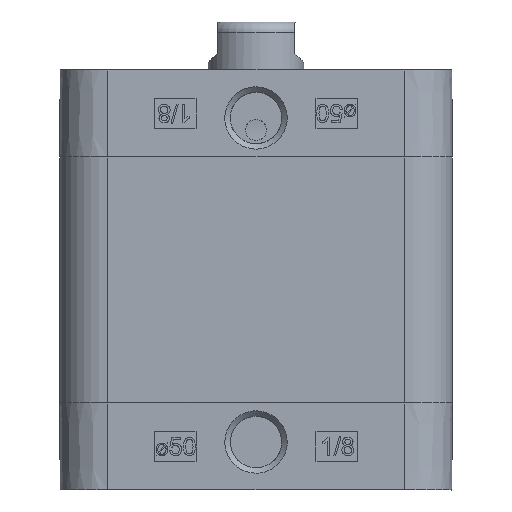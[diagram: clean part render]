
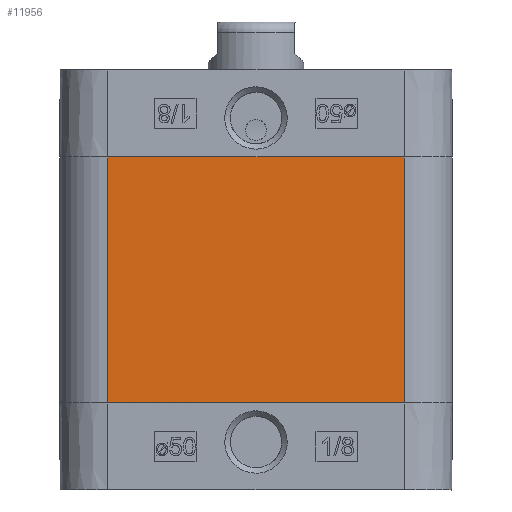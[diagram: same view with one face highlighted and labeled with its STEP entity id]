
A CAD part, left-side view. The second image highlights one B-rep face of the part: STEP entity #11956.
In plain terms, the highlighted planar face has unit normal (-1, 0, 0).
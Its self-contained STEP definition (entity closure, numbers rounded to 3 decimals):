
#1225=ORIENTED_EDGE('',*,*,#4772,.T.);
#1226=ORIENTED_EDGE('',*,*,#4771,.F.);
#1227=ORIENTED_EDGE('',*,*,#4773,.T.);
#1228=ORIENTED_EDGE('',*,*,#4774,.T.);
#4771=EDGE_CURVE('',#6544,#6543,#7759,.T.);
#4772=EDGE_CURVE('',#6545,#6543,#7760,.T.);
#4773=EDGE_CURVE('',#6544,#6546,#7761,.T.);
#4774=EDGE_CURVE('',#6546,#6545,#7762,.T.);
#6543=VERTEX_POINT('',#21604);
#6544=VERTEX_POINT('',#21606);
#6545=VERTEX_POINT('',#21610);
#6546=VERTEX_POINT('',#21612);
#7759=LINE('',#21607,#8775);
#7760=LINE('',#21609,#8776);
#7761=LINE('',#21611,#8777);
#7762=LINE('',#21613,#8778);
#8775=VECTOR('',#18331,1000.);
#8776=VECTOR('',#18334,1000.);
#8777=VECTOR('',#18335,1000.);
#8778=VECTOR('',#18336,1000.);
#9784=EDGE_LOOP('',(#1225,#1226,#1227,#1228));
#10702=FACE_BOUND('',#9784,.T.);
#11617=PLANE('',#17180);
#11956=ADVANCED_FACE('',(#10702),#11617,.T.);
#17180=AXIS2_PLACEMENT_3D('',#21608,#18332,#18333);
#18331=DIRECTION('',(0.,0.,1.));
#18332=DIRECTION('',(-1.,0.,0.));
#18333=DIRECTION('',(0.,0.,1.));
#18334=DIRECTION('',(0.,1.,0.));
#18335=DIRECTION('',(0.,-1.,0.));
#18336=DIRECTION('',(0.,0.,1.));
#21604=CARTESIAN_POINT('',(-32.75,24.75,41.));
#21606=CARTESIAN_POINT('',(-32.75,24.75,0.));
#21607=CARTESIAN_POINT('',(-32.75,24.75,0.));
#21608=CARTESIAN_POINT('',(-32.75,-24.75,0.));
#21609=CARTESIAN_POINT('',(-32.75,-24.75,41.));
#21610=CARTESIAN_POINT('',(-32.75,-24.75,41.));
#21611=CARTESIAN_POINT('',(-32.75,24.75,0.));
#21612=CARTESIAN_POINT('',(-32.75,-24.75,0.));
#21613=CARTESIAN_POINT('',(-32.75,-24.75,0.));
